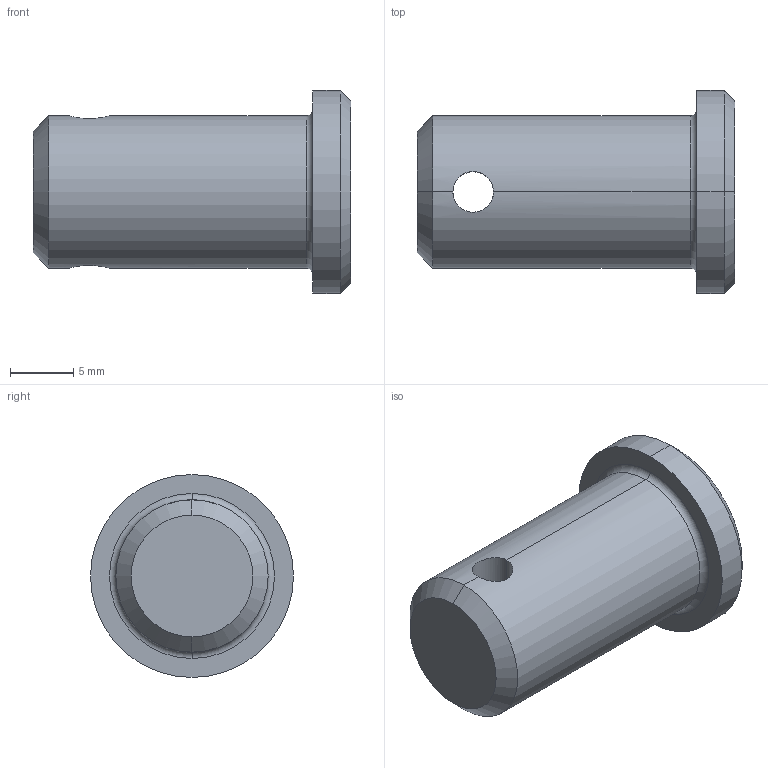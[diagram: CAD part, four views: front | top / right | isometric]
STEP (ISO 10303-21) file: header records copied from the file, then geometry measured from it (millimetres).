
FILE_DESCRIPTION (( 'STEP AP203' ), '1' );
FILE_NAME ('Wiberger-sms2360_12x22.step', '2012-10-09T08:57:18', ( 'Magnus' ), ( 'Wiberger' ), 'SwSTEP 2.0', 'SolidWorks 2011', '' );
FILE_SCHEMA (( 'CONFIG_CONTROL_DESIGN' ));
Length unit declared in the file: millimetre
Products named in the file (1): Wiberger-sms2360_12x22
Bounding box: 25 x 16 x 16 mm (x, y, z)
Volume: 2956.9 mm3; surface area: 1423.8 mm2
Topology: 1 solids, 1 shells, 15 faces, 32 edges, 18 vertices
Faces by surface type: cylinder 6, cone 4, plane 3, torus 2
Entity records: 579 total; most frequent: CARTESIAN_POINT 170, DIRECTION 76, ORIENTED_EDGE 64, EDGE_CURVE 32, AXIS2_PLACEMENT_3D 32, VERTEX_POINT 18, EDGE_LOOP 16, CIRCLE 16
